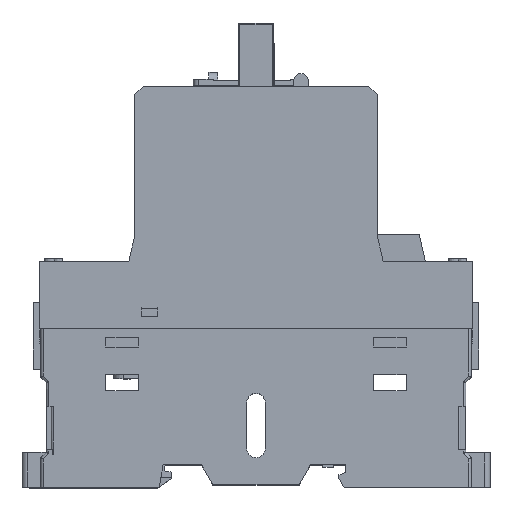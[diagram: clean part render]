
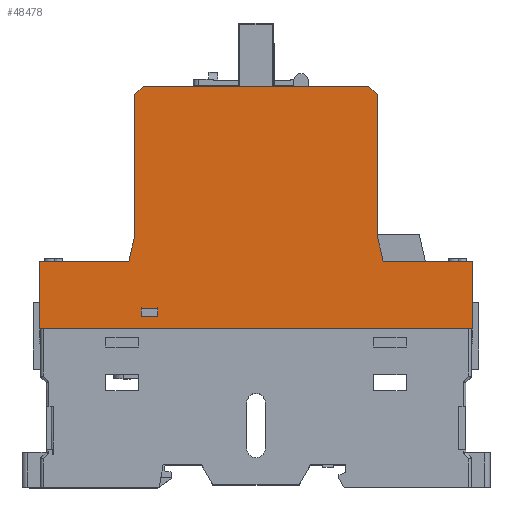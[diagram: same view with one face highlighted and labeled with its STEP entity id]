
A CAD part, top view. The second image highlights one B-rep face of the part: STEP entity #48478.
In plain terms, the highlighted planar face has unit normal (0, 0, 1).
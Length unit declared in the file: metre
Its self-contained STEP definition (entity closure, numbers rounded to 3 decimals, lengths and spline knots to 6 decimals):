
#41372=CARTESIAN_POINT('',(0.037305,0.010786,0.049028));
#41373=VERTEX_POINT('',#41372);
#41376=CARTESIAN_POINT('',(0.037305,0.010786,0.049028));
#41377=DIRECTION('',(-0.224,-0.975,0.));
#41378=VECTOR('',#41377,1.);
#41379=LINE('',#41376,#41378);
#41380=CARTESIAN_POINT('',(0.038455,0.015786,0.049028));
#41381=VERTEX_POINT('',#41380);
#41382=EDGE_CURVE('',#41381,#41373,#41379,.T.);
#41406=CARTESIAN_POINT('',(0.038455,0.043286,0.049028));
#41407=DIRECTION('',(0.,-1.,0.));
#41408=VECTOR('',#41407,1.);
#41409=LINE('',#41406,#41408);
#41410=CARTESIAN_POINT('',(0.038455,0.041786,0.049028));
#41411=VERTEX_POINT('',#41410);
#41412=EDGE_CURVE('',#41411,#41381,#41409,.T.);
#41445=CARTESIAN_POINT('',(0.038455,0.041786,0.049028));
#41446=DIRECTION('',(0.707,0.707,0.));
#41447=VECTOR('',#41446,1.);
#41448=LINE('',#41445,#41447);
#41449=CARTESIAN_POINT('',(0.039955,0.043286,0.049028));
#41450=VERTEX_POINT('',#41449);
#41451=EDGE_CURVE('',#41411,#41450,#41448,.T.);
#43716=CARTESIAN_POINT('',(0.101155,-0.001714,0.049028));
#43717=VERTEX_POINT('',#43716);
#43720=CARTESIAN_POINT('',(0.020955,-0.001714,0.049028));
#43721=DIRECTION('',(1.,0.,0.));
#43722=VECTOR('',#43721,1.);
#43723=LINE('',#43720,#43722);
#43724=CARTESIAN_POINT('',(0.020755,-0.001714,0.049028));
#43725=VERTEX_POINT('',#43724);
#43726=EDGE_CURVE('',#43725,#43717,#43723,.T.);
#44689=CARTESIAN_POINT('',(0.020755,-0.001714,0.049028));
#44690=DIRECTION('',(0.,1.,0.));
#44691=VECTOR('',#44690,1.);
#44692=LINE('',#44689,#44691);
#44693=CARTESIAN_POINT('',(0.020755,0.010786,0.049028));
#44694=VERTEX_POINT('',#44693);
#44695=EDGE_CURVE('',#43725,#44694,#44692,.T.);
#45993=CARTESIAN_POINT('',(0.101155,0.010786,0.049028));
#45994=VERTEX_POINT('',#45993);
#45997=CARTESIAN_POINT('',(0.101155,0.010786,0.049028));
#45998=DIRECTION('',(0.,-1.,0.));
#45999=VECTOR('',#45998,1.);
#46000=LINE('',#45997,#45999);
#46001=EDGE_CURVE('',#45994,#43717,#46000,.T.);
#48189=CARTESIAN_POINT('',(0.084605,0.010786,0.049028));
#48190=VERTEX_POINT('',#48189);
#48193=CARTESIAN_POINT('',(0.084605,0.010786,0.049028));
#48194=DIRECTION('',(-1.,0.,0.));
#48195=VECTOR('',#48194,1.);
#48196=LINE('',#48193,#48195);
#48197=EDGE_CURVE('',#45994,#48190,#48196,.T.);
#48345=CARTESIAN_POINT('',(0.083455,0.015786,0.049028));
#48346=VERTEX_POINT('',#48345);
#48349=CARTESIAN_POINT('',(0.084605,0.010786,0.049028));
#48350=DIRECTION('',(-0.224,0.975,0.));
#48351=VECTOR('',#48350,1.);
#48352=LINE('',#48349,#48351);
#48353=EDGE_CURVE('',#48190,#48346,#48352,.T.);
#48372=CARTESIAN_POINT('',(0.081955,0.043286,0.049028));
#48373=DIRECTION('',(0.707,-0.707,0.));
#48374=VECTOR('',#48373,1.);
#48375=LINE('',#48372,#48374);
#48376=CARTESIAN_POINT('',(0.081955,0.043286,0.049028));
#48377=VERTEX_POINT('',#48376);
#48378=CARTESIAN_POINT('',(0.083455,0.041786,0.049028));
#48379=VERTEX_POINT('',#48378);
#48380=EDGE_CURVE('',#48377,#48379,#48375,.T.);
#48427=CARTESIAN_POINT('',(0.083455,0.043286,0.049028));
#48428=DIRECTION('',(0.,1.,0.));
#48429=VECTOR('',#48428,1.);
#48430=LINE('',#48427,#48429);
#48431=EDGE_CURVE('',#48346,#48379,#48430,.T.);
#48449=CARTESIAN_POINT('',(0.020955,0.010786,0.049028));
#48450=DIRECTION('',(0.,0.,-1.));
#48451=DIRECTION('',(-1.,0.,0.));
#48452=AXIS2_PLACEMENT_3D('',#48449,#48450,#48451);
#48453=PLANE('',#48452);
#48454=ORIENTED_EDGE('',*,*,#48431,.T.);
#48455=ORIENTED_EDGE('',*,*,#48380,.F.);
#48456=CARTESIAN_POINT('',(0.038455,0.043286,0.049028));
#48457=DIRECTION('',(-1.,0.,0.));
#48458=VECTOR('',#48457,1.);
#48459=LINE('',#48456,#48458);
#48460=EDGE_CURVE('',#48377,#41450,#48459,.T.);
#48461=ORIENTED_EDGE('',*,*,#48460,.T.);
#48462=ORIENTED_EDGE('',*,*,#41451,.F.);
#48463=ORIENTED_EDGE('',*,*,#41412,.T.);
#48464=ORIENTED_EDGE('',*,*,#41382,.T.);
#48465=CARTESIAN_POINT('',(0.020955,0.010786,0.049028));
#48466=DIRECTION('',(-1.,0.,0.));
#48467=VECTOR('',#48466,1.);
#48468=LINE('',#48465,#48467);
#48469=EDGE_CURVE('',#41373,#44694,#48468,.T.);
#48470=ORIENTED_EDGE('',*,*,#48469,.T.);
#48471=ORIENTED_EDGE('',*,*,#44695,.F.);
#48472=ORIENTED_EDGE('',*,*,#43726,.T.);
#48473=ORIENTED_EDGE('',*,*,#46001,.F.);
#48474=ORIENTED_EDGE('',*,*,#48197,.T.);
#48475=ORIENTED_EDGE('',*,*,#48353,.T.);
#48476=EDGE_LOOP('',(#48454,#48455,#48461,#48462,#48463,#48464,#48470,#48471,#48472,#48473,#48474,#48475));
#48477=FACE_BOUND('',#48476,.T.);
#48478=ADVANCED_FACE('',(#48477),#48453,.F.);
